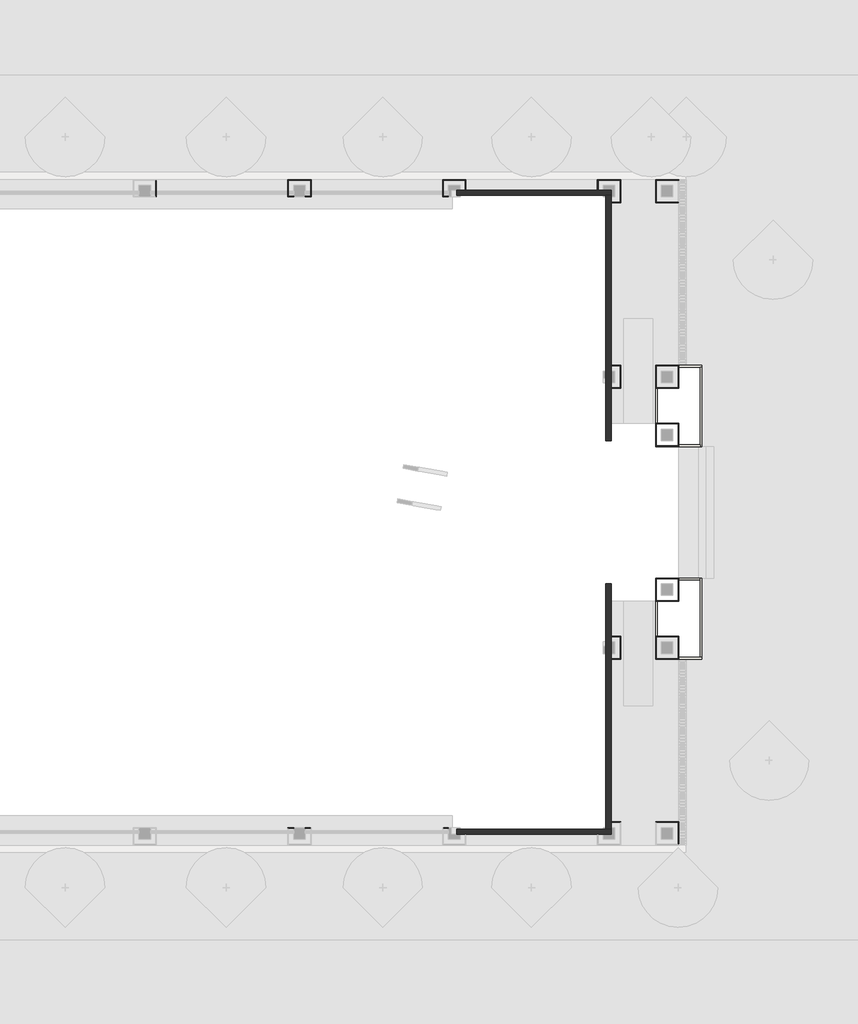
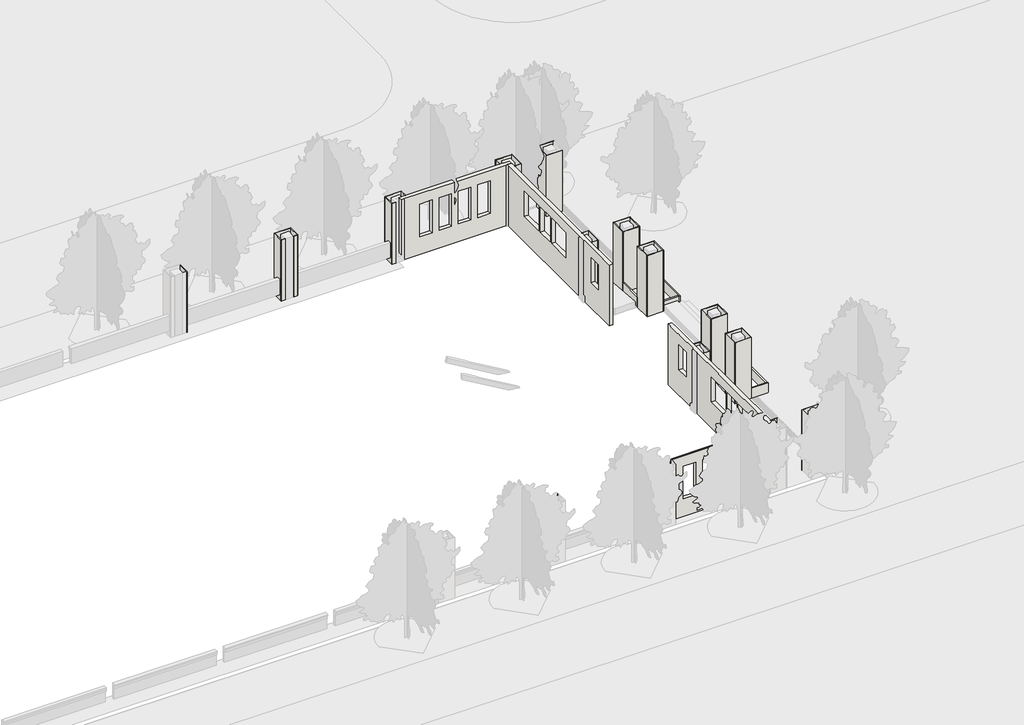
# One storey, part 3 of 5: 57 walls.
"""IFC4 building model written with IfcOpenShell, lengths in millimetres."""

from ifc_helpers import new_model, si_unit, frame, origin, place, context, project, spatial, polyline, outline, extrude, faceted_brep, element, save

model = new_model("IFC4")

# Units and contexts
model_context = context("Model", 3, world=origin())
ifc_project = project(units=[si_unit("LENGTHUNIT", "METRE", prefix="MILLI")], contexts=[model_context])

# Site, building, storey
site = spatial("IfcSite", under=ifc_project)
building = spatial("IfcBuilding", under=site)
storey = spatial("IfcBuildingStorey", under=building, Name="室外", Elevation=-450.0)

# Walls
placement = place(None, origin())
element("IfcWall", 1, ObjectType="教学楼 – 文化石外墙 – 200mm", at=placement, inside=storey, context=model_context, shape_type="Brep", body=[
    faceted_brep([(75117.0, 32982.6954642, -450.0), (75300.0, 32982.6954642, -450.0), (82700.0, 32982.6954642, -450.0), (82832.9999995, 32982.6954642, -450.0), (83102.9999995, 32982.6954642, -450.0), (83102.9999995, 32982.6954642, 4200.0), (82832.9999995, 32982.6954642, 4200.0), (82700.0, 32982.6954642, 4200.0), (79217.0000003, 32982.6954642, 4200.0), (78983.0000003, 32982.6954642, 4200.0), (75300.0, 32982.6954642, 4200.0), (75117.0, 32982.6954642, 4200.0), (75117.0, 32982.6954642, 0.0), (80659.9999987, 32982.6954642, 900.0), (80659.9999987, 32982.6954642, 3400.0), (81559.9999987, 32982.6954642, 3400.0), (81559.9999987, 32982.6954642, 900.0), (79259.9999987, 32982.6954642, 900.0), (79259.9999987, 32982.6954642, 3400.0), (80159.9999987, 32982.6954642, 3400.0), (80159.9999987, 32982.6954642, 900.0), (77859.9999987, 32982.6954642, 900.0), (77859.9999987, 32982.6954642, 3400.0), (78759.9999987, 32982.6954642, 3400.0), (78759.9999987, 32982.6954642, 900.0), (76460.0000011, 32982.6954642, 900.0), (76460.0000011, 32982.6954642, 3400.0), (77360.0000011, 32982.6954642, 3400.0), (77360.0000011, 32982.6954642, 900.0), (75117.0, 33252.6954642, -450.0), (75117.0, 33252.6954642, 0.0), (75117.0, 33252.6954642, 4200.0), (75300.0, 33252.6954642, 4200.0), (82700.0, 33252.6954642, 4200.0), (83102.9999995, 33252.6954642, 4200.0), (83102.9999995, 33252.6954642, -450.0), (82700.0, 33252.6954642, -450.0), (75300.0, 33252.6954642, -450.0), (80659.9999987, 33252.6954642, 900.0), (81559.9999987, 33252.6954642, 900.0), (81559.9999987, 33252.6954642, 3400.0), (80659.9999987, 33252.6954642, 3400.0), (79259.9999987, 33252.6954642, 900.0), (80159.9999987, 33252.6954642, 900.0), (80159.9999987, 33252.6954642, 3400.0), (79259.9999987, 33252.6954642, 3400.0), (77859.9999987, 33252.6954642, 900.0), (78759.9999987, 33252.6954642, 900.0), (78759.9999987, 33252.6954642, 3400.0), (77859.9999987, 33252.6954642, 3400.0), (76460.0000011, 33252.6954642, 900.0), (77360.0000011, 33252.6954642, 900.0), (77360.0000011, 33252.6954642, 3400.0), (76460.0000011, 33252.6954642, 3400.0)], [[[0, 1, 2, 3, 4, 5, 6, 7, 8, 9, 10, 11, 12], [13, 14, 15, 16], [17, 18, 19, 20], [21, 22, 23, 24], [25, 26, 27, 28]], [[29, 30, 31, 32, 33, 34, 35, 36, 37], [38, 39, 40, 41], [42, 43, 44, 45], [46, 47, 48, 49], [50, 51, 52, 53]], [[4, 3, 2, 1, 0, 29, 37, 36, 35]], [[11, 10, 9, 8, 7, 6, 5, 34, 33, 32, 31]], [[0, 12, 11, 31, 30, 29]], [[5, 4, 35, 34]], [[14, 13, 38, 41]], [[15, 14, 41, 40]], [[16, 15, 40, 39]], [[13, 16, 39, 38]], [[18, 17, 42, 45]], [[19, 18, 45, 44]], [[20, 19, 44, 43]], [[17, 20, 43, 42]], [[22, 21, 46, 49]], [[23, 22, 49, 48]], [[24, 23, 48, 47]], [[21, 24, 47, 46]], [[26, 25, 50, 53]], [[27, 26, 53, 52]], [[28, 27, 52, 51]], [[25, 28, 51, 50]]]),
])
element("IfcWall", 2, ObjectType="教学楼 – 文化石外墙 – 200mm", at=placement, inside=storey, context=model_context, shape_type="Brep", body=[
    faceted_brep([(82832.9999995, 32982.6954642, -450.0), (82832.9999995, 32900.0, -450.0), (82832.9999995, 23900.0, -450.0), (82832.9999995, 23300.0, -450.0), (82832.9999995, 20300.0, -450.0), (82832.9999995, 20300.0, 0.0), (82832.9999995, 20300.0, 4200.0), (82832.9999995, 20900.0, 4200.0), (82832.9999995, 23282.2230996, 4200.0), (82832.9999995, 23516.2230996, 4200.0), (82832.9999995, 23900.0, 4200.0), (82832.9999995, 26482.2230996, 4200.0), (82832.9999995, 26716.2230996, 4200.0), (82832.9999995, 32900.0, 4200.0), (82832.9999995, 32982.6954642, 4200.0), (82832.9999995, 28899.2230731, 1500.0), (82832.9999995, 28899.2230731, 3400.0), (82832.9999995, 27699.2230731, 3400.0), (82832.9999995, 27699.2230731, 1500.0), (82832.9999995, 21649.6954639, 1500.0), (82832.9999995, 22549.6954639, 1500.0), (82832.9999995, 22549.6954639, 3400.0), (82832.9999995, 21649.6954639, 3400.0), (82832.9999995, 27499.2230975, 1500.0), (82832.9999995, 27499.2230975, 3400.0), (82832.9999995, 25699.2230975, 3400.0), (82832.9999995, 25699.2230975, 1500.0), (82832.9999995, 30899.2230996, 1500.0), (82832.9999995, 30899.2230996, 3400.0), (82832.9999995, 29099.2230996, 3400.0), (82832.9999995, 29099.2230996, 1500.0), (83102.9999995, 32982.6954642, -450.0), (83102.9999995, 32982.6954642, 4200.0), (83102.9999995, 32900.0, 4200.0), (83102.9999995, 23900.0, 4200.0), (83102.9999995, 23300.0, 4200.0), (83102.9999995, 20900.0, 4200.0), (83102.9999995, 20300.0, 4200.0), (83102.9999995, 20300.0, 0.0), (83102.9999995, 20300.0, -450.0), (83102.9999995, 23300.0, -450.0), (83102.9999995, 23900.0, -450.0), (83102.9999995, 32900.0, -450.0), (83102.9999995, 28899.2230731, 1500.0), (83102.9999995, 27699.2230731, 1500.0), (83102.9999995, 27699.2230731, 3400.0), (83102.9999995, 28899.2230731, 3400.0), (83102.9999995, 21649.6954639, 1500.0), (83102.9999995, 21649.6954639, 3400.0), (83102.9999995, 22549.6954639, 3400.0), (83102.9999995, 22549.6954639, 1500.0), (83102.9999995, 27499.2230975, 1500.0), (83102.9999995, 25699.2230975, 1500.0), (83102.9999995, 25699.2230975, 3400.0), (83102.9999995, 27499.2230975, 3400.0), (83102.9999995, 30899.2230996, 1500.0), (83102.9999995, 29099.2230996, 1500.0), (83102.9999995, 29099.2230996, 3400.0), (83102.9999995, 30899.2230996, 3400.0)], [[[0, 1, 2, 3, 4, 5, 6, 7, 8, 9, 10, 11, 12, 13, 14], [15, 16, 17, 18], [19, 20, 21, 22], [23, 24, 25, 26], [27, 28, 29, 30]], [[31, 32, 33, 34, 35, 36, 37, 38, 39, 40, 41, 42], [43, 44, 45, 46], [47, 48, 49, 50], [51, 52, 53, 54], [55, 56, 57, 58]], [[4, 3, 2, 1, 0, 31, 42, 41, 40, 39]], [[6, 5, 4, 39, 38, 37]], [[14, 13, 12, 11, 10, 9, 8, 7, 6, 37, 36, 35, 34, 33, 32]], [[0, 14, 32, 31]], [[16, 15, 43, 46]], [[17, 16, 46, 45]], [[18, 17, 45, 44]], [[15, 18, 44, 43]], [[48, 47, 19, 22]], [[49, 48, 22, 21]], [[50, 49, 21, 20]], [[47, 50, 20, 19]], [[24, 23, 51, 54]], [[25, 24, 54, 53]], [[26, 25, 53, 52]], [[23, 26, 52, 51]], [[28, 27, 55, 58]], [[29, 28, 58, 57]], [[30, 29, 57, 56]], [[27, 30, 56, 55]]]),
])
element("IfcWall", 3, ObjectType="教学楼 – 文化石外墙 – 200mm", at=placement, inside=storey, context=model_context, shape_type="Brep", body=[
    faceted_brep([(75117.0, -52.6954642, -450.0), (75300.0, -52.6954642, -450.0), (82700.0, -52.6954642, -450.0), (83102.9999995, -52.6954642, -450.0), (83102.9999995, -52.6954642, 4200.0), (82700.0, -52.6954642, 4200.0), (75300.0, -52.6954642, 4200.0), (75117.0, -52.6954642, 4200.0), (75117.0, -52.6954642, 0.0), (80659.9999992, -52.6954642, 900.0), (80659.9999992, -52.6954642, 3400.0), (81559.9999992, -52.6954642, 3400.0), (81559.9999992, -52.6954642, 900.0), (79259.9999992, -52.6954642, 900.0), (79259.9999992, -52.6954642, 3400.0), (80159.9999992, -52.6954642, 3400.0), (80159.9999992, -52.6954642, 900.0), (78760.0000014, -52.6954642, 3400.0), (78760.0000014, -52.6954642, 900.0), (77860.0000014, -52.6954642, 900.0), (77860.0000014, -52.6954642, 3400.0), (77360.0000014, -52.6954642, 3400.0), (77360.0000014, -52.6954642, 900.0), (76460.0000014, -52.6954642, 900.0), (76460.0000014, -52.6954642, 3400.0), (83102.9999995, 217.3045358, -450.0), (82832.9999995, 217.3045358, -450.0), (82700.0, 217.3045358, -450.0), (75300.0, 217.3045358, -450.0), (75117.0, 217.3045358, -450.0), (75117.0, 217.3045358, 0.0), (75117.0, 217.3045358, 4050.0), (79000.0000003, 217.3045358, 4050.0), (79000.0000003, 217.3045358, 4200.0), (79217.0000003, 217.3045358, 4200.0), (82700.0, 217.3045358, 4200.0), (82832.9999995, 217.3045358, 4200.0), (83102.9999995, 217.3045358, 4200.0), (80659.9999992, 217.3045358, 3400.0), (80659.9999992, 217.3045358, 900.0), (81559.9999992, 217.3045358, 900.0), (81559.9999992, 217.3045358, 3400.0), (79259.9999992, 217.3045358, 3400.0), (79259.9999992, 217.3045358, 900.0), (80159.9999992, 217.3045358, 900.0), (80159.9999992, 217.3045358, 3400.0), (78760.0000014, 217.3045358, 900.0), (78760.0000014, 217.3045358, 3400.0), (77860.0000014, 217.3045358, 3400.0), (77860.0000014, 217.3045358, 900.0), (77360.0000014, 217.3045358, 900.0), (77360.0000014, 217.3045358, 3400.0), (76460.0000014, 217.3045358, 3400.0), (76460.0000014, 217.3045358, 900.0), (79000.0000003, 0.3045358, 4200.0), (75117.0, 0.3045358, 4200.0), (75117.0, 0.3045358, 4050.0), (79000.0000003, 0.3045358, 4050.0)], [[[0, 1, 2, 3, 4, 5, 6, 7, 8], [9, 10, 11, 12], [13, 14, 15, 16], [17, 18, 19, 20], [21, 22, 23, 24]], [[25, 26, 27, 28, 29, 30, 31, 32, 33, 34, 35, 36, 37], [38, 39, 40, 41], [42, 43, 44, 45], [46, 47, 48, 49], [50, 51, 52, 53]], [[3, 2, 1, 0, 29, 28, 27, 26, 25]], [[7, 6, 5, 4, 37, 36, 35, 34, 33, 54, 55]], [[0, 8, 7, 55, 56, 31, 30, 29]], [[4, 3, 25, 37]], [[56, 57, 32, 31]], [[57, 54, 33, 32]], [[54, 57, 56, 55]], [[10, 9, 39, 38]], [[11, 10, 38, 41]], [[12, 11, 41, 40]], [[9, 12, 40, 39]], [[14, 13, 43, 42]], [[15, 14, 42, 45]], [[16, 15, 45, 44]], [[13, 16, 44, 43]], [[47, 46, 18, 17]], [[48, 47, 17, 20]], [[49, 48, 20, 19]], [[46, 49, 19, 18]], [[51, 50, 22, 21]], [[52, 51, 21, 24]], [[53, 52, 24, 23]], [[50, 53, 23, 22]]]),
])
element("IfcWall", 4, ObjectType="教学楼 – 文化石外墙 – 200mm", at=placement, inside=storey, context=model_context, shape_type="Brep", body=[
    faceted_brep([(83102.9999995, 217.3045358, -450.0), (83102.9999995, 300.0, -450.0), (83102.9999995, 9300.0, -450.0), (83102.9999995, 9900.0, -450.0), (83102.9999995, 12900.0, -450.0), (83102.9999995, 12900.0, 0.0), (83102.9999995, 12900.0, 4200.0), (83102.9999995, 12300.0, 4200.0), (83102.9999995, 9900.0, 4200.0), (83102.9999995, 9300.0, 4200.0), (83102.9999995, 300.0, 4200.0), (83102.9999995, 217.3045358, 4200.0), (83102.9999995, 5500.1677972, 1500.0), (83102.9999995, 4300.1677972, 1500.0), (83102.9999995, 4300.1677972, 3400.0), (83102.9999995, 5500.1677972, 3400.0), (83102.9999995, 10649.6954632, 1500.0), (83102.9999995, 10649.6954632, 3400.0), (83102.9999995, 11549.6954632, 3400.0), (83102.9999995, 11549.6954632, 1500.0), (83102.9999995, 2300.1678289, 1500.0), (83102.9999995, 2300.1678289, 3400.0), (83102.9999995, 4100.1678289, 3400.0), (83102.9999995, 4100.1678289, 1500.0), (83102.9999995, 7500.1678287, 1500.0), (83102.9999995, 5700.1678287, 1500.0), (83102.9999995, 5700.1678287, 3400.0), (83102.9999995, 7500.1678287, 3400.0), (82832.9999995, 217.3045358, -450.0), (82832.9999995, 217.3045358, 4200.0), (82832.9999995, 300.0, 4200.0), (82832.9999995, 6483.7769004, 4200.0), (82832.9999995, 6717.7769004, 4200.0), (82832.9999995, 9300.0, 4200.0), (82832.9999995, 9683.7769004, 4200.0), (82832.9999995, 9917.7769004, 4200.0), (82832.9999995, 12300.0, 4200.0), (82832.9999995, 12900.0, 4200.0), (82832.9999995, 12900.0, 0.0), (82832.9999995, 12900.0, -450.0), (82832.9999995, 9900.0, -450.0), (82832.9999995, 9300.0, -450.0), (82832.9999995, 300.0, -450.0), (82832.9999995, 5500.1677972, 1500.0), (82832.9999995, 5500.1677972, 3400.0), (82832.9999995, 4300.1677972, 3400.0), (82832.9999995, 4300.1677972, 1500.0), (82832.9999995, 10649.6954632, 1500.0), (82832.9999995, 11549.6954632, 1500.0), (82832.9999995, 11549.6954632, 3400.0), (82832.9999995, 10649.6954632, 3400.0), (82832.9999995, 2300.1678289, 1500.0), (82832.9999995, 4100.1678289, 1500.0), (82832.9999995, 4100.1678289, 3400.0), (82832.9999995, 2300.1678289, 3400.0), (82832.9999995, 7500.1678287, 1500.0), (82832.9999995, 7500.1678287, 3400.0), (82832.9999995, 5700.1678287, 3400.0), (82832.9999995, 5700.1678287, 1500.0)], [[[0, 1, 2, 3, 4, 5, 6, 7, 8, 9, 10, 11], [12, 13, 14, 15], [16, 17, 18, 19], [20, 21, 22, 23], [24, 25, 26, 27]], [[28, 29, 30, 31, 32, 33, 34, 35, 36, 37, 38, 39, 40, 41, 42], [43, 44, 45, 46], [47, 48, 49, 50], [51, 52, 53, 54], [55, 56, 57, 58]], [[4, 3, 2, 1, 0, 28, 42, 41, 40, 39]], [[6, 5, 4, 39, 38, 37]], [[11, 10, 9, 8, 7, 6, 37, 36, 35, 34, 33, 32, 31, 30, 29]], [[0, 11, 29, 28]], [[44, 43, 12, 15]], [[45, 44, 15, 14]], [[46, 45, 14, 13]], [[43, 46, 13, 12]], [[17, 16, 47, 50]], [[18, 17, 50, 49]], [[19, 18, 49, 48]], [[16, 19, 48, 47]], [[21, 20, 51, 54]], [[22, 21, 54, 53]], [[23, 22, 53, 52]], [[20, 23, 52, 51]], [[56, 55, 24, 27]], [[57, 56, 27, 26]], [[58, 57, 26, 25]], [[55, 58, 25, 24]]]),
])
element("IfcWall", 5, ObjectType="教学楼 – 干挂石材 – 30mm", at=placement, inside=storey, context=model_context, shape_type="Brep", body=[
    faceted_brep([(59569.9999999, 33769.6402082, -450.0), (59569.9999999, 32929.640208, -450.0), (59569.9999999, 32899.640208, -450.0), (59569.9999999, 32899.640208, 4200.0), (59569.9999999, 32929.640208, 4200.0), (59569.9999999, 33769.6402082, 4200.0), (59599.9999999, 33769.6402082, -450.0), (59599.9999999, 33769.6402082, 4200.0), (59599.9999999, 32899.640208, 4200.0), (59599.9999999, 32899.640208, -450.0)], [[[0, 1, 2, 3, 4, 5]], [[6, 7, 8, 9]], [[2, 1, 0, 6, 9]], [[5, 4, 3, 8, 7]], [[0, 5, 7, 6]], [[3, 2, 9, 8]]]),
])
element("IfcWall", 6, ObjectType="教学楼 – 干挂石材 – 30mm", at=placement, inside=storey, context=model_context, shape_type="Brep", body=[
    faceted_brep([(66700.0, 32929.640208, -450.0), (66430.0000009, 32929.640208, -450.0), (66400.0000009, 32929.640208, -450.0), (66400.0000009, 32929.640208, 4200.0), (66430.0000009, 32929.640208, 4200.0), (66700.0, 32929.640208, 4200.0), (66700.0, 32899.640208, -450.0), (66700.0, 32899.640208, 4200.0), (66400.0000009, 32899.640208, 4200.0), (66400.0000009, 32899.640208, -450.0), (66700.0, 32900.0, -450.0), (66700.0, 32900.0, 4200.0)], [[[0, 1, 2, 3, 4, 5]], [[6, 7, 8, 9]], [[2, 1, 0, 10, 6, 9]], [[5, 4, 3, 8, 7, 11]], [[0, 5, 11, 7, 6, 10]], [[3, 2, 9, 8]]]),
])
element("IfcWall", 7, ObjectType="教学楼 – 干挂石材 – 30mm", at=placement, inside=storey, context=model_context, shape_type="Brep", body=[
    faceted_brep([(66430.0000009, 32929.640208, -450.0), (66430.0000009, 33769.6402082, -450.0), (66430.0000009, 33799.6402082, -450.0), (66430.0000009, 33799.6402082, 4200.0), (66430.0000009, 33769.6402082, 4200.0), (66430.0000009, 32929.640208, 4200.0), (66400.0000009, 32929.640208, -450.0), (66400.0000009, 32929.640208, 4200.0), (66400.0000009, 33799.6402082, 4200.0), (66400.0000009, 33799.6402082, -450.0)], [[[0, 1, 2, 3, 4, 5]], [[6, 7, 8, 9]], [[2, 1, 0, 6, 9]], [[5, 4, 3, 8, 7]], [[0, 5, 7, 6]], [[3, 2, 9, 8]]]),
])
element("IfcWall", 8, ObjectType="教学楼 – 干挂石材 – 30mm", at=placement, inside=storey, context=model_context, shape_type="Brep", body=[
    faceted_brep([(66430.0000009, 33769.6402082, -450.0), (67569.9999999, 33769.6402082, -450.0), (67599.9999999, 33769.6402082, -450.0), (67599.9999999, 33769.6402082, 4200.0), (67569.9999999, 33769.6402082, 4200.0), (66430.0000009, 33769.6402082, 4200.0), (66430.0000009, 33799.6402082, -450.0), (66430.0000009, 33799.6402082, 4200.0), (67599.9999999, 33799.6402082, 4200.0), (67599.9999999, 33799.6402082, -450.0)], [[[0, 1, 2, 3, 4, 5]], [[6, 7, 8, 9]], [[2, 1, 0, 6, 9]], [[5, 4, 3, 8, 7]], [[0, 5, 7, 6]], [[3, 2, 9, 8]]]),
])
element("IfcWall", 9, ObjectType="教学楼 – 干挂石材 – 30mm", at=placement, inside=storey, context=model_context, shape_type="Brep", body=[
    faceted_brep([(67569.9999999, 33769.6402082, -450.0), (67569.9999999, 32929.640208, -450.0), (67569.9999999, 32899.640208, -450.0), (67569.9999999, 32899.640208, 4200.0), (67569.9999999, 32929.640208, 4200.0), (67569.9999999, 33769.6402082, 4200.0), (67599.9999999, 33769.6402082, -450.0), (67599.9999999, 33769.6402082, 4200.0), (67599.9999999, 32899.640208, 4200.0), (67599.9999999, 32899.640208, -450.0)], [[[0, 1, 2, 3, 4, 5]], [[6, 7, 8, 9]], [[2, 1, 0, 6, 9]], [[5, 4, 3, 8, 7]], [[0, 5, 7, 6]], [[3, 2, 9, 8]]]),
])
element("IfcWall", 10, ObjectType="教学楼 – 干挂石材 – 30mm", at=placement, inside=storey, context=model_context, shape_type="Brep", body=[
    faceted_brep([(67569.9999999, 32929.640208, -450.0), (67300.0, 32929.640208, -450.0), (67300.0, 32929.640208, 4200.0), (67569.9999999, 32929.640208, 4200.0), (67569.9999999, 32899.640208, -450.0), (67569.9999999, 32899.640208, 4200.0), (67300.0, 32899.640208, 4200.0), (67300.0, 32899.640208, -450.0), (67300.0, 32900.0, -450.0), (67300.0, 32900.0, 4200.0)], [[[0, 1, 2, 3]], [[4, 5, 6, 7]], [[1, 0, 4, 7, 8]], [[2, 1, 8, 7, 6, 9]], [[3, 2, 9, 6, 5]], [[0, 3, 5, 4]]]),
])
element("IfcWall", 11, ObjectType="教学楼 – 干挂石材 – 30mm", at=placement, inside=storey, context=model_context, shape_type="Brep", body=[
    faceted_brep([(75599.9999991, 33252.6954639, -450.0), (75599.9999991, 33799.6402082, -450.0), (75599.9999991, 33799.6402082, 4200.0), (75599.9999991, 33252.6954639, 4200.0), (75569.9999991, 33252.6954639, -450.0), (75569.9999991, 33252.6954639, 4200.0), (75569.9999991, 33769.6402082, 4200.0), (75569.9999991, 33799.6402082, 4200.0), (75569.9999991, 33799.6402082, -450.0), (75569.9999991, 33769.6402082, -450.0)], [[[0, 1, 2, 3]], [[4, 5, 6, 7, 8, 9]], [[1, 0, 4, 9, 8]], [[3, 2, 7, 6, 5]], [[0, 3, 5, 4]], [[2, 1, 8, 7]]]),
])
element("IfcWall", 12, ObjectType="教学楼 – 干挂石材 – 30mm", at=placement, inside=storey, context=model_context, shape_type="Brep", body=[
    faceted_brep([(75569.9999991, 33799.6402082, -450.0), (74400.0000001, 33799.6402082, -450.0), (74400.0000001, 33799.6402082, 4200.0), (75569.9999991, 33799.6402082, 4200.0), (75569.9999991, 33769.6402082, -450.0), (75569.9999991, 33769.6402082, 4200.0), (74430.0000001, 33769.6402082, 4200.0), (74400.0000001, 33769.6402082, 4200.0), (74400.0000001, 33769.6402082, -450.0), (74430.0000001, 33769.6402082, -450.0)], [[[0, 1, 2, 3]], [[4, 5, 6, 7, 8, 9]], [[1, 0, 4, 9, 8]], [[3, 2, 7, 6, 5]], [[0, 3, 5, 4]], [[2, 1, 8, 7]]]),
])
element("IfcWall", 13, ObjectType="教学楼 – 干挂石材 – 30mm", at=placement, inside=storey, context=model_context, shape_type="Brep", body=[
    faceted_brep([(74400.0000001, 33769.6402082, -450.0), (74400.0000001, 32899.640208, -450.0), (74400.0000001, 32899.640208, 4200.0), (74400.0000001, 33769.6402082, 4200.0), (74430.0000001, 33769.6402082, -450.0), (74430.0000001, 33769.6402082, 4200.0), (74430.0000001, 32929.640208, 4200.0), (74430.0000001, 32899.640208, 4200.0), (74430.0000001, 32899.640208, -450.0), (74430.0000001, 32929.640208, -450.0)], [[[0, 1, 2, 3]], [[4, 5, 6, 7, 8, 9]], [[1, 0, 4, 9, 8]], [[3, 2, 7, 6, 5]], [[0, 3, 5, 4]], [[2, 1, 8, 7]]]),
])
element("IfcWall", 14, ObjectType="教学楼 – 干挂石材 – 30mm", at=placement, inside=storey, context=model_context, shape_type="Brep", body=[
    faceted_brep([(74430.0000001, 32899.640208, -450.0), (74700.0, 32899.640208, -450.0), (74700.0, 32899.640208, 4200.0), (74430.0000001, 32899.640208, 4200.0), (74430.0000001, 32929.640208, -450.0), (74430.0000001, 32929.640208, 4200.0), (74700.0, 32929.640208, 4200.0), (74700.0, 32929.640208, -450.0), (74700.0, 32900.0, -450.0), (74700.0, 32900.0, 4200.0)], [[[0, 1, 2, 3]], [[4, 5, 6, 7]], [[1, 0, 4, 7, 8]], [[2, 1, 8, 7, 6, 9]], [[3, 2, 9, 6, 5]], [[0, 3, 5, 4]]]),
])
element("IfcWall", 15, ObjectType="教学楼 – 干挂石材 – 30mm", at=placement, inside=storey, context=model_context, shape_type="Brep", body=[
    faceted_brep([(86600.0000001, 33799.3961574, -450.0), (85430.0, 33799.3961574, -450.0), (85430.0, 33799.3961574, 4200.0), (86600.0000001, 33799.3961574, 4200.0), (86600.0000001, 33769.3961574, -450.0), (86600.0000001, 33769.3961574, 4200.0), (86570.0000001, 33769.3961574, 4200.0), (85430.0, 33769.3961574, 4200.0), (85430.0, 33769.3961574, -450.0), (86570.0000001, 33769.3961574, -450.0)], [[[0, 1, 2, 3]], [[4, 5, 6, 7, 8, 9]], [[1, 0, 4, 9, 8]], [[3, 2, 7, 6, 5]], [[0, 3, 5, 4]], [[2, 1, 8, 7]]]),
])
element("IfcWall", 16, ObjectType="教学楼 – 干挂石材 – 30mm", at=placement, inside=storey, context=model_context, shape_type="Brep", body=[
    faceted_brep([(85400.0, 32599.3961574, -450.0), (86570.0000001, 32599.3961574, -450.0), (86570.0000001, 32599.3961574, 4200.0), (85400.0, 32599.3961574, 4200.0), (85400.0, 32629.3961574, -450.0), (85400.0, 32629.3961574, 4200.0), (85430.0, 32629.3961574, 4200.0), (86570.0000001, 32629.3961574, 4200.0), (86570.0000001, 32629.3961574, -450.0), (85430.0, 32629.3961574, -450.0)], [[[0, 1, 2, 3]], [[4, 5, 6, 7, 8, 9]], [[1, 0, 4, 9, 8]], [[3, 2, 7, 6, 5]], [[0, 3, 5, 4]], [[2, 1, 8, 7]]]),
])
element("IfcWall", 17, ObjectType="教学楼 – 干挂石材 – 30mm", at=placement, inside=storey, context=model_context, shape_type="Brep", body=[
    faceted_brep([(85400.0, 33799.3961574, -450.0), (85400.0, 32629.3961574, -450.0), (85400.0, 32629.3961574, 4200.0), (85400.0, 33799.3961574, 4200.0), (85430.0, 33799.3961574, -450.0), (85430.0, 33799.3961574, 4200.0), (85430.0, 33769.3961574, 4200.0), (85430.0, 32629.3961574, 4200.0), (85430.0, 32629.3961574, -450.0), (85430.0, 33769.3961574, -450.0)], [[[0, 1, 2, 3]], [[4, 5, 6, 7, 8, 9]], [[1, 0, 4, 9, 8]], [[3, 2, 7, 6, 5]], [[0, 3, 5, 4]], [[2, 1, 8, 7]]]),
])
element("IfcWall", 18, ObjectType="教学楼 – 干挂石材 – 30mm", at=placement, inside=storey, context=model_context, shape_type="Brep", body=[
    faceted_brep([(83102.9999998, 32599.6954638, -450.0), (83599.9999999, 32599.6954638, -450.0), (83599.9999999, 32599.6954638, 4200.0), (83102.9999998, 32599.6954638, 4200.0), (83102.9999998, 32629.6954638, -450.0), (83102.9999998, 32629.6954638, 4200.0), (83569.9999999, 32629.6954638, 4200.0), (83599.9999999, 32629.6954638, 4200.0), (83599.9999999, 32629.6954638, -450.0), (83569.9999999, 32629.6954638, -450.0)], [[[0, 1, 2, 3]], [[4, 5, 6, 7, 8, 9]], [[1, 0, 4, 9, 8]], [[3, 2, 7, 6, 5]], [[0, 3, 5, 4]], [[2, 1, 8, 7]]]),
])
element("IfcWall", 19, ObjectType="教学楼 – 干挂石材 – 30mm", at=placement, inside=storey, context=model_context, shape_type="Brep", body=[
    faceted_brep([(83599.9999999, 32629.6954638, -450.0), (83599.9999999, 33799.6954638, -450.0), (83599.9999999, 33799.6954638, 4200.0), (83599.9999999, 32629.6954638, 4200.0), (83569.9999999, 32629.6954638, -450.0), (83569.9999999, 32629.6954638, 4200.0), (83569.9999999, 33769.6954638, 4200.0), (83569.9999999, 33799.6954638, 4200.0), (83569.9999999, 33799.6954638, -450.0), (83569.9999999, 33769.6954638, -450.0)], [[[0, 1, 2, 3]], [[4, 5, 6, 7, 8, 9]], [[1, 0, 4, 9, 8]], [[3, 2, 7, 6, 5]], [[0, 3, 5, 4]], [[2, 1, 8, 7]]]),
])
element("IfcWall", 20, ObjectType="教学楼 – 干挂石材 – 30mm", at=placement, inside=storey, context=model_context, shape_type="Brep", body=[
    faceted_brep([(83569.9999999, 33799.6954638, -450.0), (82399.9999999, 33799.6954638, -450.0), (82399.9999999, 33799.6954638, 4200.0), (83569.9999999, 33799.6954638, 4200.0), (83569.9999999, 33769.6954638, -450.0), (83569.9999999, 33769.6954638, 4200.0), (82429.9999999, 33769.6954638, 4200.0), (82399.9999999, 33769.6954638, 4200.0), (82399.9999999, 33769.6954638, -450.0), (82429.9999999, 33769.6954638, -450.0)], [[[0, 1, 2, 3]], [[4, 5, 6, 7, 8, 9]], [[1, 0, 4, 9, 8]], [[3, 2, 7, 6, 5]], [[0, 3, 5, 4]], [[2, 1, 8, 7]]]),
])
element("IfcWall", 21, ObjectType="教学楼 – 干挂石材 – 30mm", at=placement, inside=storey, context=model_context, shape_type="SweptSolid", body=[
    extrude(outline(polyline([(82399.9999999, 33252.6954639), (82399.9999999, 33769.6954638), (82429.9999999, 33769.6954638), (82429.9999999, 33252.6954639), (82399.9999999, 33252.6954639)])), frame((0.0, 0.0, -450.0), z_axis=(0.0, 0.0, 1.0), x_axis=(1.0, 0.0, 0.0)), (0.0, 0.0, 1.0), 4650.0),
])
element("IfcWall", 22, ObjectType="教学楼 – 干挂石材 – 30mm", at=placement, inside=storey, context=model_context, shape_type="Brep", body=[
    faceted_brep([(86600.0000001, 24199.3961574, 4200.0), (86600.0000001, 24199.3961574, -450.0), (85430.0, 24199.3961574, -450.0), (85430.0, 24199.3961574, 4200.0), (86600.0000001, 24169.3961574, -450.0), (86600.0000001, 24169.3961574, 4200.0), (86570.0000001, 24169.3961574, 4200.0), (85430.0, 24169.3961574, 4200.0), (85430.0, 24169.3961574, -450.0), (86570.0000001, 24169.3961574, -450.0)], [[[0, 1, 2, 3]], [[4, 5, 6, 7, 8, 9]], [[2, 1, 4, 9, 8]], [[0, 3, 7, 6, 5]], [[3, 2, 8, 7]], [[0, 5, 4, 1]]]),
])
element("IfcWall", 23, ObjectType="教学楼 – 干挂石材 – 30mm", at=placement, inside=storey, context=model_context, shape_type="Brep", body=[
    faceted_brep([(86600.0000001, 22999.3961574, -450.0), (86600.0000001, 24099.6454368, -450.0), (86600.0000001, 24169.3961574, -450.0), (86600.0000001, 24169.3961574, 4200.0), (86600.0000001, 22999.3961574, 4200.0), (86570.0000001, 22999.3961574, -450.0), (86570.0000001, 22999.3961574, 4200.0), (86570.0000001, 23029.3961574, 4200.0), (86570.0000001, 24169.3961574, 4200.0), (86570.0000001, 24169.3961574, -450.0), (86570.0000001, 23029.3961574, -450.0)], [[[0, 1, 2, 3, 4]], [[5, 6, 7, 8, 9, 10]], [[2, 1, 0, 5, 10, 9]], [[4, 3, 8, 7, 6]], [[0, 4, 6, 5]], [[2, 9, 8, 3]]]),
])
element("IfcWall", 24, ObjectType="教学楼 – 干挂石材 – 30mm", at=placement, inside=storey, context=model_context, shape_type="Brep", body=[
    faceted_brep([(85400.0, 22999.3961574, 4200.0), (85400.0, 22999.3961574, 300.0), (85400.0, 22999.3961574, -450.0), (85500.0, 22999.3961574, -450.0), (86570.0000001, 22999.3961574, -450.0), (86570.0000001, 22999.3961574, 4200.0), (85400.0, 23029.3961574, -450.0), (85400.0, 23029.3961574, 4200.0), (85430.0, 23029.3961574, 4200.0), (86570.0000001, 23029.3961574, 4200.0), (86570.0000001, 23029.3961574, -450.0), (85430.0, 23029.3961574, -450.0)], [[[0, 1, 2, 3, 4, 5]], [[6, 7, 8, 9, 10, 11]], [[4, 3, 2, 6, 11, 10]], [[0, 5, 9, 8, 7]], [[5, 4, 10, 9]], [[0, 7, 6, 2, 1]]]),
])
element("IfcWall", 25, ObjectType="教学楼 – 干挂石材 – 30mm", at=placement, inside=storey, context=model_context, shape_type="Brep", body=[
    faceted_brep([(85400.0, 24199.3961574, -450.0), (85400.0, 23029.3961574, -450.0), (85400.0, 23029.3961574, 4200.0), (85400.0, 24199.3961574, 4200.0), (85430.0, 24199.3961574, -450.0), (85430.0, 24199.3961574, 4200.0), (85430.0, 24169.3961574, 4200.0), (85430.0, 23029.3961574, 4200.0), (85430.0, 23029.3961574, -450.0), (85430.0, 24169.3961574, -450.0)], [[[0, 1, 2, 3]], [[4, 5, 6, 7, 8, 9]], [[1, 0, 4, 9, 8]], [[3, 2, 7, 6, 5]], [[0, 3, 5, 4]], [[1, 8, 7, 2]]]),
])
element("IfcWall", 26, ObjectType="教学楼 – 干挂石材 – 30mm", at=placement, inside=storey, context=model_context, shape_type="Brep", body=[
    faceted_brep([(83102.9999995, 24169.6954638, -450.0), (83570.0000001, 24169.6954638, -450.0), (83600.0000001, 24169.6954638, -450.0), (83600.0000001, 24169.6954638, 4200.0), (83570.0000001, 24169.6954638, 4200.0), (83102.9999995, 24169.6954638, 4200.0), (83102.9999995, 24199.6954638, -450.0), (83102.9999995, 24199.6954638, 4200.0), (83600.0000001, 24199.6954638, 4200.0), (83600.0000001, 24199.6954638, -450.0)], [[[0, 1, 2, 3, 4, 5]], [[6, 7, 8, 9]], [[2, 1, 0, 6, 9]], [[5, 4, 3, 8, 7]], [[0, 5, 7, 6]], [[3, 2, 9, 8]]]),
])
element("IfcWall", 27, ObjectType="教学楼 – 干挂石材 – 30mm", at=placement, inside=storey, context=model_context, shape_type="Brep", body=[
    faceted_brep([(83570.0000001, 24169.6954638, -450.0), (83570.0000001, 23029.6954638, -450.0), (83570.0000001, 22999.6954638, -450.0), (83570.0000001, 22999.6954638, 4200.0), (83570.0000001, 23029.6954638, 4200.0), (83570.0000001, 24169.6954638, 4200.0), (83600.0000001, 24169.6954638, -450.0), (83600.0000001, 24169.6954638, 4200.0), (83600.0000001, 22999.6954638, 4200.0), (83600.0000001, 22999.6954638, -450.0)], [[[0, 1, 2, 3, 4, 5]], [[6, 7, 8, 9]], [[2, 1, 0, 6, 9]], [[5, 4, 3, 8, 7]], [[0, 5, 7, 6]], [[3, 2, 9, 8]]]),
])
element("IfcWall", 28, ObjectType="教学楼 – 干挂石材 – 30mm", at=placement, inside=storey, context=model_context, shape_type="SweptSolid", body=[
    extrude(outline(polyline([(83102.9999995, 23029.6954638), (83570.0000001, 23029.6954638), (83570.0000001, 22999.6954638), (83102.9999995, 22999.6954638), (83102.9999995, 23029.6954638)])), frame((0.0, 0.0, -450.0), z_axis=(0.0, 0.0, 1.0), x_axis=(1.0, 0.0, 0.0)), (0.0, 0.0, 1.0), 4650.0),
])
element("IfcWall", 29, ObjectType="教学楼 – 干挂石材 – 30mm", at=placement, inside=storey, context=model_context, shape_type="Brep", body=[
    faceted_brep([(86600.0000001, 21199.7006935, -450.0), (85500.0, 21199.7006935, -450.0), (85430.0, 21199.7006935, -450.0), (85430.0, 21199.7006935, 4200.0), (86600.0000001, 21199.7006935, 4200.0), (86600.0000001, 21169.7006935, -450.0), (86600.0000001, 21169.7006935, 4200.0), (86570.0000001, 21169.7006935, 4200.0), (85430.0, 21169.7006935, 4200.0), (85430.0, 21169.7006935, -450.0), (86570.0000001, 21169.7006935, -450.0)], [[[0, 1, 2, 3, 4]], [[5, 6, 7, 8, 9, 10]], [[2, 1, 0, 5, 10, 9]], [[4, 3, 8, 7, 6]], [[0, 4, 6, 5]], [[2, 9, 8, 3]]]),
])
element("IfcWall", 30, ObjectType="教学楼 – 干挂石材 – 30mm", at=placement, inside=storey, context=model_context, shape_type="Brep", body=[
    faceted_brep([(86600.0000001, 19999.7006935, 4200.0), (86600.0000001, 19999.7006935, 300.0), (86600.0000001, 19999.7006935, -450.0), (86600.0000001, 20099.6902344, -450.0), (86600.0000001, 21169.7006935, -450.0), (86600.0000001, 21169.7006935, 4200.0), (86570.0000001, 19999.7006935, -450.0), (86570.0000001, 19999.7006935, 4200.0), (86570.0000001, 20029.7006935, 4200.0), (86570.0000001, 21169.7006935, 4200.0), (86570.0000001, 21169.7006935, -450.0), (86570.0000001, 20029.7006935, -450.0)], [[[0, 1, 2, 3, 4, 5]], [[6, 7, 8, 9, 10, 11]], [[4, 3, 2, 6, 11, 10]], [[0, 5, 9, 8, 7]], [[5, 4, 10, 9]], [[0, 7, 6, 2, 1]]]),
])
element("IfcWall", 31, ObjectType="教学楼 – 干挂石材 – 30mm", at=placement, inside=storey, context=model_context, shape_type="Brep", body=[
    faceted_brep([(85400.0, 19999.7006935, -450.0), (86570.0000001, 19999.7006935, -450.0), (86570.0000001, 19999.7006935, 4200.0), (85400.0, 19999.7006935, 4200.0), (85400.0, 20029.7006935, -450.0), (85400.0, 20029.7006935, 4200.0), (85430.0, 20029.7006935, 4200.0), (86570.0000001, 20029.7006935, 4200.0), (86570.0000001, 20029.7006935, -450.0), (85430.0, 20029.7006935, -450.0)], [[[0, 1, 2, 3]], [[4, 5, 6, 7, 8, 9]], [[1, 0, 4, 9, 8]], [[3, 2, 7, 6, 5]], [[0, 3, 5, 4]], [[1, 8, 7, 2]]]),
])
element("IfcWall", 32, ObjectType="教学楼 – 干挂石材 – 30mm", at=placement, inside=storey, context=model_context, shape_type="Brep", body=[
    faceted_brep([(85400.0, 21199.7006935, 4200.0), (85400.0, 21199.7006935, 300.0), (85400.0, 21199.7006935, -450.0), (85400.0, 20029.7006935, -450.0), (85400.0, 20029.7006935, 4200.0), (85430.0, 21199.7006935, -450.0), (85430.0, 21199.7006935, 4200.0), (85430.0, 21169.7006935, 4200.0), (85430.0, 20029.7006935, 4200.0), (85430.0, 20029.7006935, -450.0), (85430.0, 21169.7006935, -450.0)], [[[0, 1, 2, 3, 4]], [[5, 6, 7, 8, 9, 10]], [[3, 2, 5, 10, 9]], [[0, 4, 8, 7, 6]], [[4, 3, 9, 8]], [[0, 6, 5, 2, 1]]]),
])
element("IfcWall", 33, ObjectType="教学楼 – 干挂石材 – 30mm", at=placement, inside=storey, context=model_context, shape_type="Brep", body=[
    faceted_brep([(86570.0000001, 600.6038426, -450.0), (86570.0000001, 570.6038426, -450.0), (86570.0000001, -569.3961574, -450.0), (86570.0000001, -569.3961574, 4200.0), (86570.0000001, 570.6038426, 4200.0), (86570.0000001, 600.6038426, 4200.0), (86600.0000001, 600.6038426, -450.0), (86600.0000001, 600.6038426, 4200.0), (86600.0000001, -569.3961574, 4200.0), (86600.0000001, -569.3961574, -450.0)], [[[0, 1, 2, 3, 4, 5]], [[6, 7, 8, 9]], [[2, 1, 0, 6, 9]], [[5, 4, 3, 8, 7]], [[0, 5, 7, 6]], [[3, 2, 9, 8]]]),
])
element("IfcWall", 34, ObjectType="教学楼 – 干挂石材 – 30mm", at=placement, inside=storey, context=model_context, shape_type="Brep", body=[
    faceted_brep([(85400.0, 570.6038426, -450.0), (85430.0, 570.6038426, -450.0), (86570.0000001, 570.6038426, -450.0), (86570.0000001, 570.6038426, 4200.0), (85430.0, 570.6038426, 4200.0), (85400.0, 570.6038426, 4200.0), (85400.0, 600.6038426, -450.0), (85400.0, 600.6038426, 4200.0), (86570.0000001, 600.6038426, 4200.0), (86570.0000001, 600.6038426, -450.0)], [[[0, 1, 2, 3, 4, 5]], [[6, 7, 8, 9]], [[2, 1, 0, 6, 9]], [[5, 4, 3, 8, 7]], [[0, 5, 7, 6]], [[3, 2, 9, 8]]]),
])
element("IfcWall", 35, ObjectType="教学楼 – 干挂石材 – 30mm", at=placement, inside=storey, context=model_context, shape_type="Brep", body=[
    faceted_brep([(83102.9999998, 570.3045362, -450.0), (83569.9999999, 570.3045362, -450.0), (83599.9999999, 570.3045362, -450.0), (83599.9999999, 570.3045362, 4200.0), (83569.9999999, 570.3045362, 4200.0), (83102.9999998, 570.3045362, 4200.0), (83102.9999998, 600.3045362, -450.0), (83102.9999998, 600.3045362, 4200.0), (83599.9999999, 600.3045362, 4200.0), (83599.9999999, 600.3045362, -450.0)], [[[0, 1, 2, 3, 4, 5]], [[6, 7, 8, 9]], [[2, 1, 0, 6, 9]], [[5, 4, 3, 8, 7]], [[0, 5, 7, 6]], [[3, 2, 9, 8]]]),
])
element("IfcWall", 36, ObjectType="教学楼 – 干挂石材 – 30mm", at=placement, inside=storey, context=model_context, shape_type="Brep", body=[
    faceted_brep([(86600.0000001, 9030.6038426, 4200.0), (86600.0000001, 9030.6038426, -450.0), (86570.0000001, 9030.6038426, -450.0), (85430.0, 9030.6038426, -450.0), (85430.0, 9030.6038426, 4200.0), (86570.0000001, 9030.6038426, 4200.0), (86600.0000001, 9000.6038426, -450.0), (86600.0000001, 9000.6038426, 4200.0), (85430.0, 9000.6038426, 4200.0), (85430.0, 9000.6038426, -450.0)], [[[0, 1, 2, 3, 4, 5]], [[6, 7, 8, 9]], [[3, 2, 1, 6, 9]], [[0, 5, 4, 8, 7]], [[4, 3, 9, 8]], [[0, 7, 6, 1]]]),
])
element("IfcWall", 37, ObjectType="教学楼 – 干挂石材 – 30mm", at=placement, inside=storey, context=model_context, shape_type="Brep", body=[
    faceted_brep([(86570.0000001, 10200.6038426, -450.0), (86570.0000001, 10170.6038426, -450.0), (86570.0000001, 9030.6038426, -450.0), (86570.0000001, 9030.6038426, 4200.0), (86570.0000001, 10170.6038426, 4200.0), (86570.0000001, 10200.6038426, 4200.0), (86600.0000001, 10200.6038426, -450.0), (86600.0000001, 10200.6038426, 4200.0), (86600.0000001, 9030.6038426, 4200.0), (86600.0000001, 9030.6038426, -450.0), (86600.0000001, 9100.3545632, -450.0)], [[[0, 1, 2, 3, 4, 5]], [[6, 7, 8, 9, 10]], [[2, 1, 0, 6, 10, 9]], [[5, 4, 3, 8, 7]], [[0, 5, 7, 6]], [[2, 9, 8, 3]]]),
])
element("IfcWall", 38, ObjectType="教学楼 – 干挂石材 – 30mm", at=placement, inside=storey, context=model_context, shape_type="Brep", body=[
    faceted_brep([(85400.0, 10170.6038426, 4200.0), (85400.0, 10170.6038426, -450.0), (85430.0, 10170.6038426, -450.0), (86570.0000001, 10170.6038426, -450.0), (86570.0000001, 10170.6038426, 4200.0), (85430.0, 10170.6038426, 4200.0), (85400.0, 10200.6038426, -450.0), (85400.0, 10200.6038426, 300.0), (85400.0, 10200.6038426, 4200.0), (86570.0000001, 10200.6038426, 4200.0), (86570.0000001, 10200.6038426, -450.0), (85500.0, 10200.6038426, -450.0)], [[[0, 1, 2, 3, 4, 5]], [[6, 7, 8, 9, 10, 11]], [[3, 2, 1, 6, 11, 10]], [[0, 5, 4, 9, 8]], [[4, 3, 10, 9]], [[0, 8, 7, 6, 1]]]),
])
element("IfcWall", 39, ObjectType="教学楼 – 干挂石材 – 30mm", at=placement, inside=storey, context=model_context, shape_type="Brep", body=[
    faceted_brep([(85430.0, 9000.6038426, -450.0), (85430.0, 9030.6038426, -450.0), (85430.0, 10170.6038426, -450.0), (85430.0, 10170.6038426, 4200.0), (85430.0, 9030.6038426, 4200.0), (85430.0, 9000.6038426, 4200.0), (85400.0, 9000.6038426, -450.0), (85400.0, 9000.6038426, 4200.0), (85400.0, 10170.6038426, 4200.0), (85400.0, 10170.6038426, -450.0)], [[[0, 1, 2, 3, 4, 5]], [[6, 7, 8, 9]], [[2, 1, 0, 6, 9]], [[5, 4, 3, 8, 7]], [[0, 5, 7, 6]], [[2, 9, 8, 3]]]),
])
element("IfcWall", 40, ObjectType="教学楼 – 干挂石材 – 30mm", at=placement, inside=storey, context=model_context, shape_type="Brep", body=[
    faceted_brep([(83102.9999995, 9000.3045362, -450.0), (83600.0000001, 9000.3045362, -450.0), (83600.0000001, 9000.3045362, 4200.0), (83102.9999995, 9000.3045362, 4200.0), (83102.9999995, 9030.3045362, -450.0), (83102.9999995, 9030.3045362, 4200.0), (83570.0000001, 9030.3045362, 4200.0), (83600.0000001, 9030.3045362, 4200.0), (83600.0000001, 9030.3045362, -450.0), (83570.0000001, 9030.3045362, -450.0)], [[[0, 1, 2, 3]], [[4, 5, 6, 7, 8, 9]], [[1, 0, 4, 9, 8]], [[3, 2, 7, 6, 5]], [[0, 3, 5, 4]], [[2, 1, 8, 7]]]),
])
element("IfcWall", 41, ObjectType="教学楼 – 干挂石材 – 30mm", at=placement, inside=storey, context=model_context, shape_type="Brep", body=[
    faceted_brep([(83600.0000001, 9030.3045362, -450.0), (83600.0000001, 10200.3045362, -450.0), (83600.0000001, 10200.3045362, 4200.0), (83600.0000001, 9030.3045362, 4200.0), (83570.0000001, 9030.3045362, -450.0), (83570.0000001, 9030.3045362, 4200.0), (83570.0000001, 10170.3045362, 4200.0), (83570.0000001, 10200.3045362, 4200.0), (83570.0000001, 10200.3045362, -450.0), (83570.0000001, 10170.3045362, -450.0)], [[[0, 1, 2, 3]], [[4, 5, 6, 7, 8, 9]], [[1, 0, 4, 9, 8]], [[3, 2, 7, 6, 5]], [[0, 3, 5, 4]], [[2, 1, 8, 7]]]),
])
element("IfcWall", 42, ObjectType="教学楼 – 干挂石材 – 30mm", at=placement, inside=storey, context=model_context, shape_type="SweptSolid", body=[
    extrude(outline(polyline([(83102.9999995, 10200.3045362), (83570.0000001, 10200.3045362), (83570.0000001, 10170.3045362), (83102.9999995, 10170.3045362), (83102.9999995, 10200.3045362)])), frame((0.0, 0.0, -450.0), z_axis=(0.0, 0.0, 1.0), x_axis=(1.0, 0.0, 0.0)), (0.0, 0.0, 1.0), 4650.0),
])
element("IfcWall", 43, ObjectType="教学楼 – 干挂石材 – 30mm", at=placement, inside=storey, context=model_context, shape_type="Brep", body=[
    faceted_brep([(86600.0000001, 12030.2993065, -450.0), (86570.0000001, 12030.2993065, -450.0), (85430.0, 12030.2993065, -450.0), (85430.0, 12030.2993065, 4200.0), (86570.0000001, 12030.2993065, 4200.0), (86600.0000001, 12030.2993065, 4200.0), (86600.0000001, 12000.2993065, -450.0), (86600.0000001, 12000.2993065, 4200.0), (85430.0, 12000.2993065, 4200.0), (85430.0, 12000.2993065, -450.0), (85500.0, 12000.2993065, -450.0)], [[[0, 1, 2, 3, 4, 5]], [[6, 7, 8, 9, 10]], [[2, 1, 0, 6, 10, 9]], [[5, 4, 3, 8, 7]], [[0, 5, 7, 6]], [[2, 9, 8, 3]]]),
])
element("IfcWall", 44, ObjectType="教学楼 – 干挂石材 – 30mm", at=placement, inside=storey, context=model_context, shape_type="Brep", body=[
    faceted_brep([(86570.0000001, 13200.2993065, 4200.0), (86570.0000001, 13200.2993065, -450.0), (86570.0000001, 13170.2993065, -450.0), (86570.0000001, 12030.2993065, -450.0), (86570.0000001, 12030.2993065, 4200.0), (86570.0000001, 13170.2993065, 4200.0), (86600.0000001, 13200.2993065, -450.0), (86600.0000001, 13200.2993065, 300.0), (86600.0000001, 13200.2993065, 4200.0), (86600.0000001, 12030.2993065, 4200.0), (86600.0000001, 12030.2993065, -450.0), (86600.0000001, 13100.3097656, -450.0)], [[[0, 1, 2, 3, 4, 5]], [[6, 7, 8, 9, 10, 11]], [[3, 2, 1, 6, 11, 10]], [[0, 5, 4, 9, 8]], [[4, 3, 10, 9]], [[0, 8, 7, 6, 1]]]),
])
element("IfcWall", 45, ObjectType="教学楼 – 干挂石材 – 30mm", at=placement, inside=storey, context=model_context, shape_type="Brep", body=[
    faceted_brep([(85400.0, 13170.2993065, -450.0), (85430.0, 13170.2993065, -450.0), (86570.0000001, 13170.2993065, -450.0), (86570.0000001, 13170.2993065, 4200.0), (85430.0, 13170.2993065, 4200.0), (85400.0, 13170.2993065, 4200.0), (85400.0, 13200.2993065, -450.0), (85400.0, 13200.2993065, 4200.0), (86570.0000001, 13200.2993065, 4200.0), (86570.0000001, 13200.2993065, -450.0)], [[[0, 1, 2, 3, 4, 5]], [[6, 7, 8, 9]], [[2, 1, 0, 6, 9]], [[5, 4, 3, 8, 7]], [[0, 5, 7, 6]], [[2, 9, 8, 3]]]),
])
element("IfcWall", 46, ObjectType="教学楼 – 干挂石材 – 30mm", at=placement, inside=storey, context=model_context, shape_type="Brep", body=[
    faceted_brep([(85430.0, 12000.2993065, 4200.0), (85430.0, 12000.2993065, -450.0), (85430.0, 12030.2993065, -450.0), (85430.0, 13170.2993065, -450.0), (85430.0, 13170.2993065, 4200.0), (85430.0, 12030.2993065, 4200.0), (85400.0, 12000.2993065, -450.0), (85400.0, 12000.2993065, 300.0), (85400.0, 12000.2993065, 4200.0), (85400.0, 13170.2993065, 4200.0), (85400.0, 13170.2993065, -450.0)], [[[0, 1, 2, 3, 4, 5]], [[6, 7, 8, 9, 10]], [[3, 2, 1, 6, 10]], [[0, 5, 4, 9, 8]], [[4, 3, 10, 9]], [[0, 8, 7, 6, 1]]]),
])
element("IfcWall", 47, ObjectType="教学楼 – 干挂石材 – 30mm", at=placement, inside=storey, context=model_context, shape_type="SweptSolid", body=[
    extrude(outline(polyline([(74700.0, 269.7507199), (74430.0000001, 269.7507199), (74430.0000001, 299.7507199), (74700.0, 299.7507199), (74700.0, 269.7507199)])), frame((0.0, 0.0, -450.0), z_axis=(0.0, 0.0, 1.0), x_axis=(1.0, 0.0, 0.0)), (0.0, 0.0, 1.0), 4650.0),
])
element("IfcWall", 48, ObjectType="教学楼 – 干挂石材 – 30mm", at=placement, inside=storey, context=model_context, shape_type="Brep", body=[
    faceted_brep([(66700.0, 300.359792, -450.0), (66400.0000009, 300.359792, -450.0), (66400.0000009, 300.359792, 4200.0), (66700.0, 300.359792, 4200.0), (66700.0, 270.359792, -450.0), (66700.0, 270.359792, 4200.0), (66430.0000009, 270.359792, 4200.0), (66400.0000009, 270.359792, 4200.0), (66400.0000009, 270.359792, -450.0), (66430.0000009, 270.359792, -450.0), (66700.0, 300.0, -450.0), (66700.0, 300.0, 4200.0)], [[[0, 1, 2, 3]], [[4, 5, 6, 7, 8, 9]], [[1, 0, 10, 4, 9, 8]], [[3, 2, 7, 6, 5, 11]], [[0, 3, 11, 5, 4, 10]], [[2, 1, 8, 7]]]),
])
element("IfcWall", 49, ObjectType="教学楼 – 干挂石材 – 30mm", at=placement, inside=storey, context=model_context, shape_type="Brep", body=[
    faceted_brep([(67569.9999999, 300.359792, -450.0), (67300.0, 300.359792, -450.0), (67300.0, 300.359792, 4200.0), (67569.9999999, 300.359792, 4200.0), (67569.9999999, 270.359792, -450.0), (67569.9999999, 270.359792, 4200.0), (67300.0, 270.359792, 4200.0), (67300.0, 270.359792, -450.0), (67300.0, 300.0, -450.0), (67300.0, 300.0, 4200.0)], [[[0, 1, 2, 3]], [[4, 5, 6, 7]], [[1, 0, 4, 7, 8]], [[2, 1, 8, 7, 6, 9]], [[3, 2, 9, 6, 5]], [[0, 3, 5, 4]]]),
])
element("IfcWall", 50, ObjectType="教学楼 – 门厅入口处花池 – 100mm", at=placement, inside=storey, context=model_context, shape_type="Brep", body=[
    faceted_brep([(87800.0000001, 9100.3545632, -450.0), (87700.0000001, 9100.3545632, -450.0), (86600.0000001, 9100.3545632, -450.0), (86600.0000001, 9100.3545632, 300.0), (87700.0000001, 9100.3545632, 300.0), (87800.0000001, 9100.3545632, 300.0), (87800.0000001, 9000.3545632, -450.0), (87800.0000001, 9000.3545632, 300.0), (86600.0000001, 9000.3545632, 300.0), (86600.0000001, 9000.3545632, -450.0), (86600.0000001, 9000.6038426, -450.0), (86600.0000001, 9030.6038426, -450.0)], [[[0, 1, 2, 3, 4, 5]], [[6, 7, 8, 9]], [[2, 1, 0, 6, 9, 10, 11]], [[5, 4, 3, 8, 7]], [[0, 5, 7, 6]], [[3, 2, 11, 10, 9, 8]]]),
])
element("IfcWall", 51, ObjectType="教学楼 – 门厅入口处花池 – 100mm", at=placement, inside=storey, context=model_context, shape_type="Brep", body=[
    faceted_brep([(87700.0000001, 13200.3097656, -450.0), (87700.0000001, 13100.3097656, -450.0), (87700.0000001, 9100.3545632, -450.0), (87700.0000001, 9100.3545632, 300.0), (87700.0000001, 13100.3097656, 300.0), (87700.0000001, 13200.3097656, 300.0), (87800.0000001, 13200.3097656, -450.0), (87800.0000001, 13200.3097656, 300.0), (87800.0000001, 9100.3545632, 300.0), (87800.0000001, 9100.3545632, -450.0)], [[[0, 1, 2, 3, 4, 5]], [[6, 7, 8, 9]], [[2, 1, 0, 6, 9]], [[5, 4, 3, 8, 7]], [[3, 2, 9, 8]], [[0, 5, 7, 6]]]),
])
element("IfcWall", 52, ObjectType="教学楼 – 门厅入口处花池 – 100mm", at=placement, inside=storey, context=model_context, shape_type="SweptSolid", body=[
    extrude(outline(polyline([(87700.0000001, 13100.3097656), (86600.0000001, 13100.3097656), (86600.0000001, 13200.3097656), (87700.0000001, 13200.3097656), (87700.0000001, 13100.3097656)])), frame((0.0, 0.0, -450.0), z_axis=(0.0, 0.0, 1.0), x_axis=(1.0, 0.0, 0.0)), (0.0, 0.0, 1.0), 750.0),
])
element("IfcWall", 53, ObjectType="教学楼 – 门厅入口处花池 – 100mm", at=placement, inside=storey, context=model_context, shape_type="Brep", body=[
    faceted_brep([(85500.0, 10200.6038426, -450.0), (85500.0, 12000.2993065, -450.0), (85500.0, 12000.2993065, 300.0), (85500.0, 10200.6038426, 300.0), (85400.0, 10200.6038426, -450.0), (85400.0, 10200.6038426, 300.0), (85400.0, 12000.2993065, 300.0), (85400.0, 12000.2993065, -450.0), (85430.0, 12000.2993065, -450.0)], [[[0, 1, 2, 3]], [[4, 5, 6, 7]], [[1, 0, 4, 7, 8]], [[3, 2, 6, 5]], [[0, 3, 5, 4]], [[2, 1, 8, 7, 6]]]),
])
element("IfcWall", 54, ObjectType="教学楼 – 门厅入口处花池 – 100mm", at=placement, inside=storey, context=model_context, shape_type="Brep", body=[
    faceted_brep([(87800.0000001, 24199.6454368, -450.0), (86600.0000001, 24199.6454368, -450.0), (86600.0000001, 24199.6454368, 300.0), (87800.0000001, 24199.6454368, 300.0), (87800.0000001, 24099.6454368, -450.0), (87800.0000001, 24099.6454368, 300.0), (87700.0000001, 24099.6454368, 300.0), (86600.0000001, 24099.6454368, 300.0), (86600.0000001, 24099.6454368, -450.0), (87700.0000001, 24099.6454368, -450.0), (86600.0000001, 24169.3961574, -450.0), (86600.0000001, 24199.3961574, -450.0)], [[[0, 1, 2, 3]], [[4, 5, 6, 7, 8, 9]], [[1, 0, 4, 9, 8, 10, 11]], [[3, 2, 7, 6, 5]], [[0, 3, 5, 4]], [[2, 1, 11, 10, 8, 7]]]),
])
element("IfcWall", 55, ObjectType="教学楼 – 门厅入口处花池 – 100mm", at=placement, inside=storey, context=model_context, shape_type="Brep", body=[
    faceted_brep([(87800.0000001, 19999.6902344, -450.0), (87800.0000001, 24099.6454368, -450.0), (87800.0000001, 24099.6454368, 300.0), (87800.0000001, 19999.6902344, 300.0), (87700.0000001, 19999.6902344, -450.0), (87700.0000001, 19999.6902344, 300.0), (87700.0000001, 20099.6902344, 300.0), (87700.0000001, 24099.6454368, 300.0), (87700.0000001, 24099.6454368, -450.0), (87700.0000001, 20099.6902344, -450.0)], [[[0, 1, 2, 3]], [[4, 5, 6, 7, 8, 9]], [[1, 0, 4, 9, 8]], [[3, 2, 7, 6, 5]], [[2, 1, 8, 7]], [[0, 3, 5, 4]]]),
])
element("IfcWall", 56, ObjectType="教学楼 – 门厅入口处花池 – 100mm", at=placement, inside=storey, context=model_context, shape_type="SweptSolid", body=[
    extrude(outline(polyline([(87700.0000001, 19999.6902344), (86600.0000001, 19999.6902344), (86600.0000001, 20099.6902344), (87700.0000001, 20099.6902344), (87700.0000001, 19999.6902344)])), frame((0.0, 0.0, -450.0), z_axis=(0.0, 0.0, 1.0), x_axis=(1.0, 0.0, 0.0)), (0.0, 0.0, 1.0), 750.0),
])
element("IfcWall", 57, ObjectType="教学楼 – 门厅入口处花池 – 100mm", at=placement, inside=storey, context=model_context, shape_type="Brep", body=[
    faceted_brep([(85400.0, 22999.3961574, -450.0), (85400.0, 21199.7006935, -450.0), (85400.0, 21199.7006935, 300.0), (85400.0, 22999.3961574, 300.0), (85500.0, 22999.3961574, -450.0), (85500.0, 22999.3961574, 300.0), (85500.0, 21199.7006935, 300.0), (85500.0, 21199.7006935, -450.0), (85430.0, 21199.7006935, -450.0)], [[[0, 1, 2, 3]], [[4, 5, 6, 7]], [[1, 0, 4, 7, 8]], [[3, 2, 6, 5]], [[0, 3, 5, 4]], [[2, 1, 8, 7, 6]]]),
])

save(model, "model.ifc")
